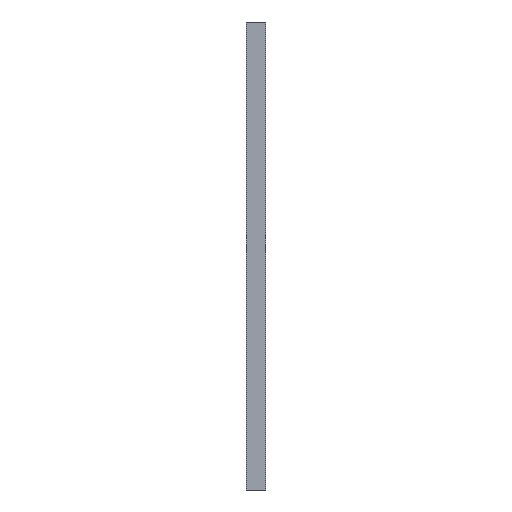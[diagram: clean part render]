
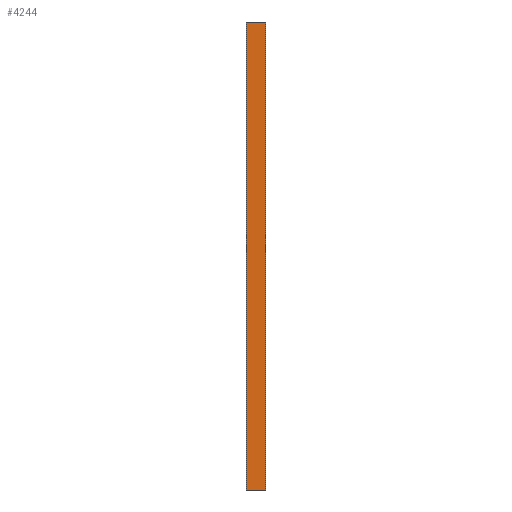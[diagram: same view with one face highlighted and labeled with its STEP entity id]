
A CAD part, left-side view. The second image highlights one B-rep face of the part: STEP entity #4244.
In plain terms, the highlighted planar face has unit normal (-1, 0, 0).
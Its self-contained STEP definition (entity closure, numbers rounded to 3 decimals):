
#33 = LINE ( 'NONE', #9480, #2527 ) ;
#284 = CARTESIAN_POINT ( 'NONE',  ( 0., 0., 0. ) ) ;
#405 = CARTESIAN_POINT ( 'NONE',  ( 0., 0., -3000. ) ) ;
#508 = EDGE_CURVE ( 'NONE', #7932, #4518, #6340, .T. ) ;
#628 = ORIENTED_EDGE ( 'NONE', *, *, #3205, .T. ) ;
#707 = DIRECTION ( 'NONE',  ( 0., 0., 1. ) ) ;
#1005 = DIRECTION ( 'NONE',  ( 0., 0., 1. ) ) ;
#1161 = PLANE ( 'NONE',  #1840 ) ;
#1840 = AXIS2_PLACEMENT_3D ( 'NONE', #405, #8981, #8834 ) ;
#1998 = CARTESIAN_POINT ( 'NONE',  ( 0., 0., -3000. ) ) ;
#2034 = FACE_OUTER_BOUND ( 'NONE', #6773, .T. ) ;
#2527 = VECTOR ( 'NONE', #1005, 1000. ) ;
#2950 = CARTESIAN_POINT ( 'NONE',  ( 0., 123., -3000. ) ) ;
#3205 = EDGE_CURVE ( 'NONE', #4438, #4518, #5072, .T. ) ;
#3357 = CARTESIAN_POINT ( 'NONE',  ( 0., 123., 0. ) ) ;
#3499 = CARTESIAN_POINT ( 'NONE',  ( 0., 0., -3000. ) ) ;
#3895 = EDGE_CURVE ( 'NONE', #8936, #4438, #5749, .T. ) ;
#4162 = VECTOR ( 'NONE', #5570, 1000. ) ;
#4244 = ADVANCED_FACE ( 'NONE', ( #2034 ), #1161, .T. ) ;
#4438 = VERTEX_POINT ( 'NONE', #7793 ) ;
#4442 = VECTOR ( 'NONE', #707, 1000. ) ;
#4518 = VERTEX_POINT ( 'NONE', #284 ) ;
#5072 = LINE ( 'NONE', #1998, #4442 ) ;
#5570 = DIRECTION ( 'NONE',  ( 0., -1., 0. ) ) ;
#5749 = LINE ( 'NONE', #3499, #5920 ) ;
#5875 = EDGE_CURVE ( 'NONE', #8936, #7932, #33, .T. ) ;
#5920 = VECTOR ( 'NONE', #7999, 1000. ) ;
#6024 = ORIENTED_EDGE ( 'NONE', *, *, #3895, .T. ) ;
#6340 = LINE ( 'NONE', #9496, #4162 ) ;
#6773 = EDGE_LOOP ( 'NONE', ( #6804, #9659, #6024, #628 ) ) ;
#6804 = ORIENTED_EDGE ( 'NONE', *, *, #508, .F. ) ;
#7793 = CARTESIAN_POINT ( 'NONE',  ( 0., 0., -3000. ) ) ;
#7932 = VERTEX_POINT ( 'NONE', #3357 ) ;
#7999 = DIRECTION ( 'NONE',  ( 0., -1., 0. ) ) ;
#8834 = DIRECTION ( 'NONE',  ( 0., 0., 1. ) ) ;
#8936 = VERTEX_POINT ( 'NONE', #2950 ) ;
#8981 = DIRECTION ( 'NONE',  ( -1., 0., 0. ) ) ;
#9480 = CARTESIAN_POINT ( 'NONE',  ( 0., 123., -3000. ) ) ;
#9496 = CARTESIAN_POINT ( 'NONE',  ( 0., 0., 0. ) ) ;
#9659 = ORIENTED_EDGE ( 'NONE', *, *, #5875, .F. ) ;
